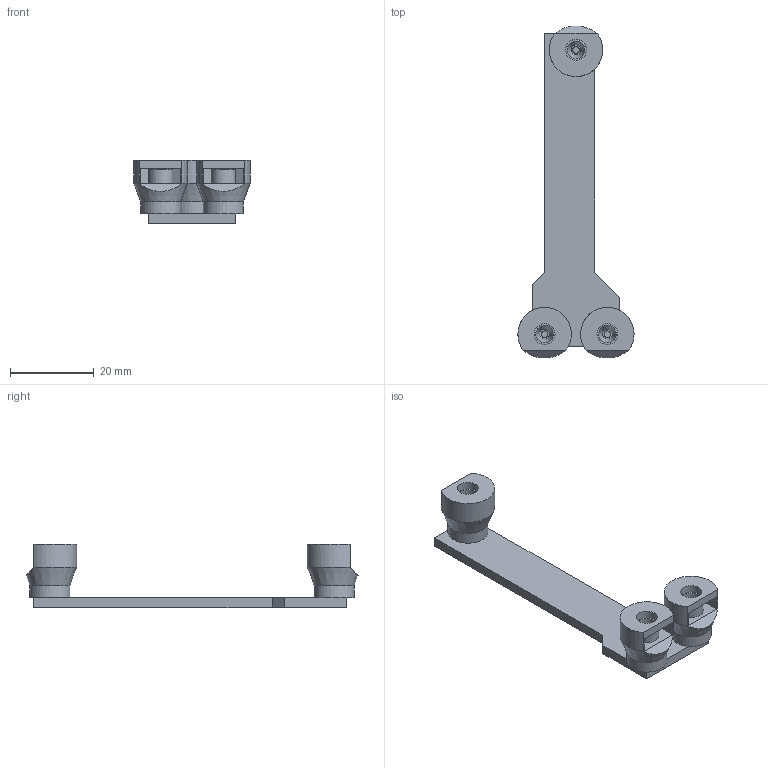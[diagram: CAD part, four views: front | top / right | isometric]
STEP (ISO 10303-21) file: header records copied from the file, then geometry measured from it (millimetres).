
FILE_DESCRIPTION(/* description */ (''),/* implementation_level */ '2;1');
FILE_NAME(/* name */ 'V:\Flow\Inventor\Mischertests\Zickzack.stp',/* time_stamp */ '2019-12-20T09:47:36+01:00',/* author */ ('JN'),/* organization */ (''),/* preprocessor_version */ 'ST-DEVELOPER v17',/* originating_system */ 'Autodesk Inventor 2018',/* authorisation */ '');
FILE_SCHEMA (('AUTOMOTIVE_DESIGN { 1 0 10303 214 3 1 1 }'));
Length unit declared in the file: millimetre
Products named in the file (3): SAR; Flow Reaktor 16 - Test Mischzonen 2; 10-32 Mutter einschieben
Assembly tree (4 placements, depth 2):
  SAR
    Flow Reaktor 16 - Test Mischzonen 2
    10-32 Mutter einschieben  x3
Bounding box: 27.8 x 79.4 x 15.1 mm (x, y, z)
Volume: 4938.7 mm3; surface area: 6135.9 mm2
Topology: 7 solids, 7 shells, 124 faces, 327 edges, 219 vertices
Faces by surface type: plane 94, cylinder 24, cone 6
Full cylindrical faces by diameter (mm): 1.6 x3, 2.4 x3, 5 x9, 5.8 x3, 9.6 x3
Entity records: 2641 total; most frequent: CARTESIAN_POINT 455, ORIENTED_EDGE 438, DIRECTION 425, EDGE_CURVE 219, LINE 179, VECTOR 179, VERTEX_POINT 147, AXIS2_PLACEMENT_3D 123
